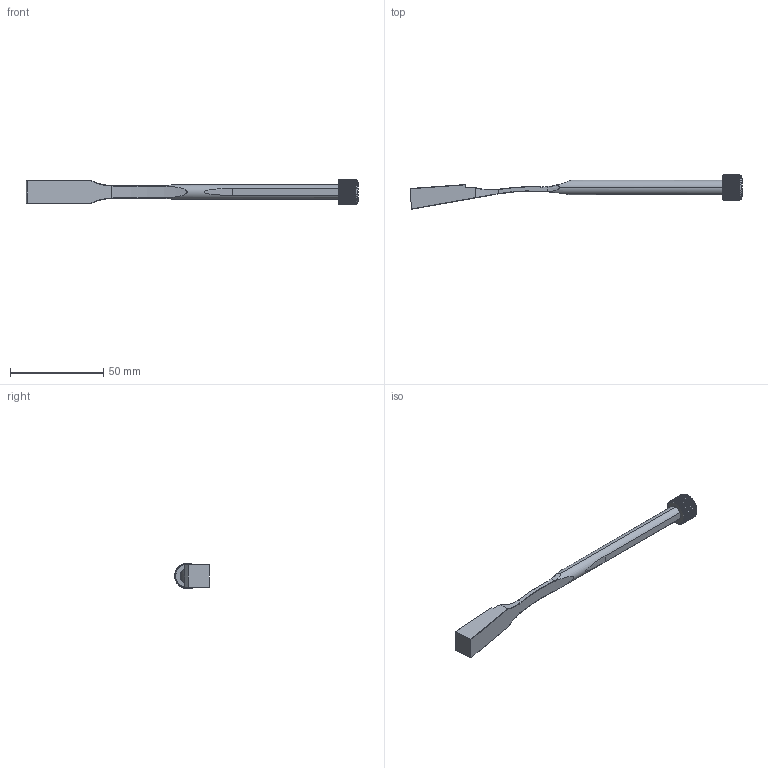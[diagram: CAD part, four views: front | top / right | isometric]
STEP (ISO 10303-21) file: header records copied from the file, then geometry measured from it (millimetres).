
FILE_DESCRIPTION (( 'STEP AP214' ), '1' );
FILE_NAME ('PX081230-175.Abierta.STEP', '2020-02-10T09:56:42', ( '' ), ( '' ), 'SwSTEP 2.0', 'SolidWorks 2018', '' );
FILE_SCHEMA (( 'AUTOMOTIVE_DESIGN' ));
Length unit declared in the file: millimetre
Products named in the file (5): 9TP0810HX-1; 9TP0810HX; 9PX081230 abierta; PX081230-175.Abierta; JT ﾘ8X1,5
Assembly tree (4 placements, depth 3):
  PX081230-175.Abierta
    9PX081230 abierta
    9TP0810HX
      9TP0810HX-1
      JT ﾘ8X1,5
Bounding box: 178.44 x 18.57 x 13.8 mm (x, y, z)
Volume: 10605.8 mm3; surface area: 6457.2 mm2
Topology: 3 solids, 3 shells, 749 faces, 2100 edges, 1390 vertices
Faces by surface type: plane 297, bspline 273, cylinder 150, cone 15, torus 14
Entity records: 43014 total; most frequent: CARTESIAN_POINT 22369, ORIENTED_EDGE 4200, EDGE_CURVE 2100, DIRECTION 2099, VERTEX_POINT 1390, B_SPLINE_CURVE_WITH_KNOTS 1266, AXIS2_PLACEMENT_3D 788, EDGE_LOOP 786
